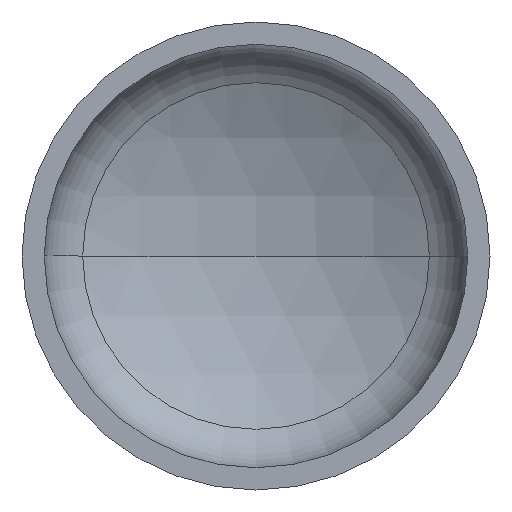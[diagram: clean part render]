
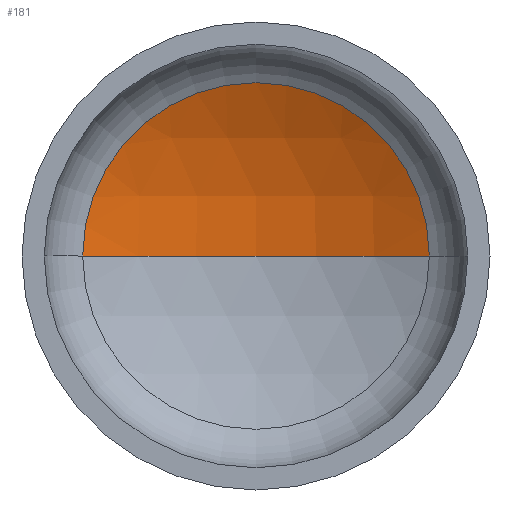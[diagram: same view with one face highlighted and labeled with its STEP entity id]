
A CAD part, front view. The second image highlights one B-rep face of the part: STEP entity #181.
In plain terms, the highlighted spherical face has radius 1280 mm.
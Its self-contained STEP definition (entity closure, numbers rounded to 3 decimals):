
#2 = AXIS2_PLACEMENT_3D ( 'NONE', #374, #222, #397 ) ;
#12 = ORIENTED_EDGE ( 'NONE', *, *, #315, .T. ) ;
#16 = EDGE_LOOP ( 'NONE', ( #19, #117, #12 ) ) ;
#18 = AXIS2_PLACEMENT_3D ( 'NONE', #261, #210, #385 ) ;
#19 = ORIENTED_EDGE ( 'NONE', *, *, #368, .F. ) ;
#23 = AXIS2_PLACEMENT_3D ( 'NONE', #130, #131, #146 ) ;
#46 = AXIS2_PLACEMENT_3D ( 'NONE', #185, #174, #177 ) ;
#52 = VERTEX_POINT ( 'NONE', #278 ) ;
#117 = ORIENTED_EDGE ( 'NONE', *, *, #322, .T. ) ;
#124 = VERTEX_POINT ( 'NONE', #292 ) ;
#130 = CARTESIAN_POINT ( 'NONE',  ( 0., 337.183, 0. ) ) ;
#131 = DIRECTION ( 'NONE',  ( 0., -1., 0. ) ) ;
#146 = DIRECTION ( 'NONE',  ( 1., 0., 0. ) ) ;
#174 = DIRECTION ( 'NONE',  ( 0., 0., -1. ) ) ;
#177 = DIRECTION ( 'NONE',  ( -1., 0., 0. ) ) ;
#181 = ADVANCED_FACE ( 'NONE', ( #229 ), #239, .F. ) ;
#185 = CARTESIAN_POINT ( 'NONE',  ( 0., -797.488, 0. ) ) ;
#196 = CARTESIAN_POINT ( 'NONE',  ( 0., 482.512, 0. ) ) ;
#200 = VERTEX_POINT ( 'NONE', #196 ) ;
#210 = DIRECTION ( 'NONE',  ( 0., 0., -1. ) ) ;
#222 = DIRECTION ( 'NONE',  ( 0., 0., 1. ) ) ;
#229 = FACE_OUTER_BOUND ( 'NONE', #16, .T. ) ;
#239 = SPHERICAL_SURFACE ( 'NONE', #46, 1280. ) ;
#250 = CIRCLE ( 'NONE', #2, 1280. ) ;
#261 = CARTESIAN_POINT ( 'NONE',  ( 0., -797.488, 0. ) ) ;
#265 = CIRCLE ( 'NONE', #18, 1280. ) ;
#278 = CARTESIAN_POINT ( 'NONE',  ( -592.386, 337.183, 0. ) ) ;
#292 = CARTESIAN_POINT ( 'NONE',  ( 592.386, 337.183, 0. ) ) ;
#315 = EDGE_CURVE ( 'NONE', #124, #52, #398, .T. ) ;
#322 = EDGE_CURVE ( 'NONE', #200, #124, #265, .T. ) ;
#368 = EDGE_CURVE ( 'NONE', #200, #52, #250, .T. ) ;
#374 = CARTESIAN_POINT ( 'NONE',  ( 0., -797.488, 0. ) ) ;
#385 = DIRECTION ( 'NONE',  ( -1., 0., 0. ) ) ;
#397 = DIRECTION ( 'NONE',  ( 1., 0., 0. ) ) ;
#398 = CIRCLE ( 'NONE', #23, 592.386 ) ;
